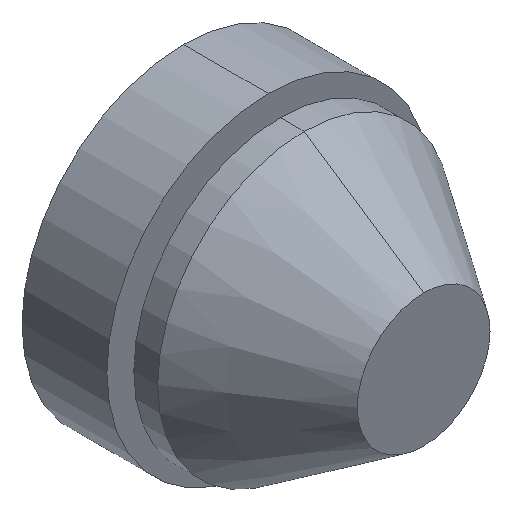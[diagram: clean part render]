
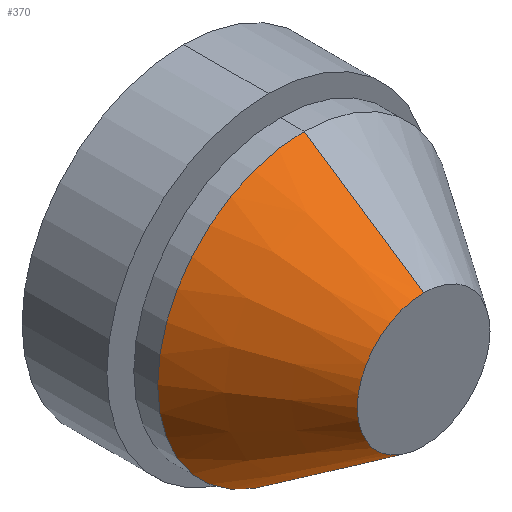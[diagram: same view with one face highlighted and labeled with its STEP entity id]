
A CAD part, isometric view. The second image highlights one B-rep face of the part: STEP entity #370.
In plain terms, the highlighted conical face has half-angle 33.82 degrees and reference radius 5.551 mm.
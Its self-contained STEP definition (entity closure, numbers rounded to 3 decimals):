
#1 = CONICAL_SURFACE ( 'NONE', #85, 5.551, 0.59 ) ;
#6 = CIRCLE ( 'NONE', #76, 12.25 ) ;
#9 = CIRCLE ( 'NONE', #83, 5.551 ) ;
#19 = LINE ( 'NONE', #268, #21 ) ;
#21 = VECTOR ( 'NONE', #265, 1000. ) ;
#22 = FACE_OUTER_BOUND ( 'NONE', #138, .T. ) ;
#63 = DIRECTION ( 'NONE',  ( 0., 0.831, -0.557 ) ) ;
#64 = CARTESIAN_POINT ( 'NONE',  ( 0., 0., -5.551 ) ) ;
#76 = AXIS2_PLACEMENT_3D ( 'NONE', #283, #286, #282 ) ;
#83 = AXIS2_PLACEMENT_3D ( 'NONE', #316, #315, #314 ) ;
#85 = AXIS2_PLACEMENT_3D ( 'NONE', #321, #318, #328 ) ;
#110 = VERTEX_POINT ( 'NONE', #236 ) ;
#112 = VERTEX_POINT ( 'NONE', #247 ) ;
#123 = ORIENTED_EDGE ( 'NONE', *, *, #262, .T. ) ;
#127 = ORIENTED_EDGE ( 'NONE', *, *, #333, .F. ) ;
#129 = ORIENTED_EDGE ( 'NONE', *, *, #334, .T. ) ;
#136 = VERTEX_POINT ( 'NONE', #252 ) ;
#138 = EDGE_LOOP ( 'NONE', ( #142, #127, #129, #123 ) ) ;
#142 = ORIENTED_EDGE ( 'NONE', *, *, #256, .F. ) ;
#148 = VERTEX_POINT ( 'NONE', #250 ) ;
#174 = VECTOR ( 'NONE', #63, 1000. ) ;
#176 = LINE ( 'NONE', #64, #174 ) ;
#236 = CARTESIAN_POINT ( 'NONE',  ( 0., 0., -5.551 ) ) ;
#247 = CARTESIAN_POINT ( 'NONE',  ( 0., 10., 12.25 ) ) ;
#250 = CARTESIAN_POINT ( 'NONE',  ( 0., 0., 5.551 ) ) ;
#252 = CARTESIAN_POINT ( 'NONE',  ( 0., 10., -12.25 ) ) ;
#256 = EDGE_CURVE ( 'NONE', #110, #136, #176, .T. ) ;
#262 = EDGE_CURVE ( 'NONE', #112, #136, #6, .T. ) ;
#265 = DIRECTION ( 'NONE',  ( 0., 0.831, 0.557 ) ) ;
#268 = CARTESIAN_POINT ( 'NONE',  ( 0., 0., 5.551 ) ) ;
#282 = DIRECTION ( 'NONE',  ( 0., 0., -1. ) ) ;
#283 = CARTESIAN_POINT ( 'NONE',  ( 0., 10., 0. ) ) ;
#286 = DIRECTION ( 'NONE',  ( 0., -1., 0. ) ) ;
#314 = DIRECTION ( 'NONE',  ( 0., 0., -1. ) ) ;
#315 = DIRECTION ( 'NONE',  ( 0., -1., 0. ) ) ;
#316 = CARTESIAN_POINT ( 'NONE',  ( 0., 0., 0. ) ) ;
#318 = DIRECTION ( 'NONE',  ( 0., 1., 0. ) ) ;
#321 = CARTESIAN_POINT ( 'NONE',  ( 0., 0., 0. ) ) ;
#328 = DIRECTION ( 'NONE',  ( 0., 0., 1. ) ) ;
#333 = EDGE_CURVE ( 'NONE', #148, #110, #9, .T. ) ;
#334 = EDGE_CURVE ( 'NONE', #148, #112, #19, .T. ) ;
#370 = ADVANCED_FACE ( 'NONE', ( #22 ), #1, .T. ) ;
